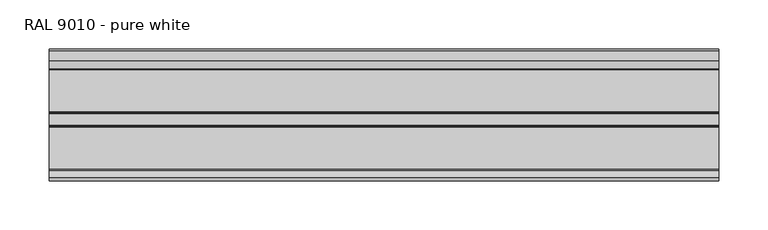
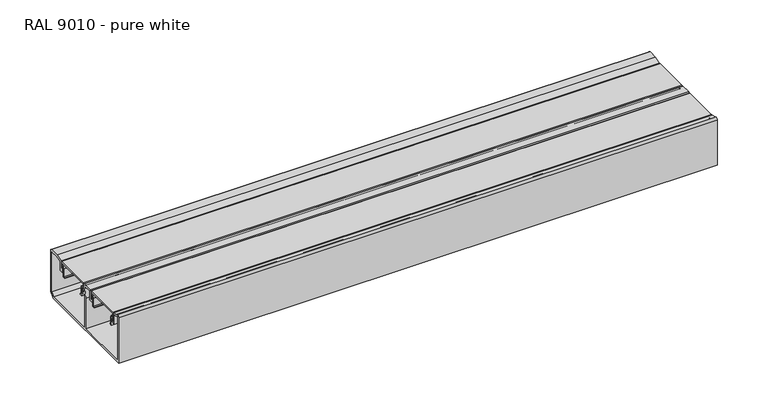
"""IFC4 building model written with IfcOpenShell, lengths in millimetres: proxy geometry, Electrical_Installations_Hager_GBD-Flat-Lid-End-Cap : RAL 9010 - pure white."""

from ifc_helpers import new_model, si_unit, point, frame, frame_2d, origin, place, context, project, spatial, polyline, circle_curve, trimmed, segment, composite_curve, outline, extrude, source, transform, mapped, element, save


def ral_9010_pure_white_5f65953f(model_context):
    return source(origin(), model_context, "Body", "SweptSolid", [
        extrude(outline(composite_curve([segment(polyline([(-64.6976563, 54.0894343), (-64.6976563, 2.0), (-2.2476563, 2.0), (-2.2476563, 38.3324137), (-0.2476563, 49.6749773), (-0.2476563, 52.0), (-9.8476563, 52.0), (-9.8476563, 41.5012147), (-14.5382813, 41.5012147), (-14.5382813, 45.748101), (-13.5382813, 45.748101), (-13.5382813, 42.9887147), (-11.6476563, 42.9887147), (-11.6476563, 53.0031102)]), True, "CONTINUOUS"), segment(trimmed(circle_curve(frame_2d((-10.6507665, 53.0031102)), 0.9968898), [point((-11.6476563, 53.0031102))], [point((-10.6507665, 54.0))], False, "CARTESIAN"), True, "CONTINUOUS"), segment(polyline([(-10.6507665, 54.0), (0.7441474, 54.0)]), True, "CONTINUOUS"), segment(trimmed(circle_curve(frame_2d((0.7441474, 52.9918037)), 1.0081963), [point((0.7441474, 54.0))], [point((1.7523437, 52.9918037))], False, "CARTESIAN"), True, "CONTINUOUS"), segment(polyline([(1.7523437, 52.9918037), (1.7523437, 49.5), (0.6591165, 43.3), (3.2523437, 43.3), (3.2523437, 45.7537431), (4.2523437, 45.7537431), (4.2523437, 41.5), (0.3417279, 41.5), (-0.2476563, 38.1574364), (-0.2476563, 2.0), (60.5496526, 2.0), (64.5023437, 5.9526912), (64.5023437, 54.2), (54.8614746, 54.2), (48.5523437, 52.1500391), (48.5523437, 41.5), (44.2523437, 41.5), (44.2523437, 45.7556921), (45.2523437, 45.7556921), (45.2523437, 42.9887147), (46.7523437, 42.9887147), (46.7523437, 53.9835468), (54.4971904, 56.5), (64.8989144, 56.5)]), True, "CONTINUOUS"), segment(trimmed(circle_curve(frame_2d((64.8989144, 54.5965707)), 1.9034293), [point((64.8989144, 56.5))], [point((66.8023437, 54.5965707))], False, "CARTESIAN"), True, "CONTINUOUS"), segment(polyline([(66.8023437, 54.5965707), (66.8023437, 5.0), (61.8023437, 0.0), (-66.9976563, 0.0), (-66.9976563, 54.4045249)]), True, "CONTINUOUS"), segment(trimmed(circle_curve(frame_2d((-64.9278927, 54.4045249)), 2.0697636), [point((-66.9976563, 54.4045249))], [point((-64.2989994, 56.3764312))], False, "CARTESIAN"), True, "CONTINUOUS"), segment(polyline([(-64.2989994, 56.3764312), (-56.8429688, 53.998505), (-56.8429688, 42.9887147), (-54.6789063, 42.9887147), (-54.6789063, 45.7565885), (-53.6789063, 45.7565885), (-53.6789063, 41.5012147), (-58.4476563, 41.5012147), (-58.4476563, 52.0961433), (-64.6976563, 54.0894343)]), True, "CONTINUOUS")], self_intersect=False)), frame((0.0, 0.0, 0.0), z_axis=(1.0, 0.0, 0.0), x_axis=(0.0, 1.0, 0.0)), (0.0, 0.0, 1.0), 679.873466),
        extrude(outline(composite_curve([segment(polyline([(-13.1613464, 52.5816445), (-55.0613464, 52.5816445), (-55.0613464, 49.2816445), (-53.7229555, 49.2816445)]), True, "CONTINUOUS"), segment(trimmed(circle_curve(frame_2d((-53.7229555, 47.1700354)), 2.1116091), [point((-53.7229555, 49.2816445))], [point((-51.6113464, 47.1700354))], False, "CARTESIAN"), True, "CONTINUOUS"), segment(polyline([(-51.6113464, 47.1700354), (-51.6113464, 37.6816445), (-49.7113464, 37.6816445), (-49.7113464, 36.8816445), (-52.6113464, 36.8816445), (-52.6113464, 47.3262929)]), True, "CONTINUOUS"), segment(trimmed(circle_curve(frame_2d((-53.566698, 47.3262929)), 0.9553516), [point((-52.6113464, 47.3262929))], [point((-53.566698, 48.2816445))], True, "CARTESIAN"), True, "CONTINUOUS"), segment(polyline([(-53.566698, 48.2816445), (-55.3644879, 48.2816445), (-55.3644879, 43.8012242), (-56.3660339, 43.8012242), (-56.3660339, 53.0900381)]), True, "CONTINUOUS"), segment(trimmed(circle_curve(frame_2d((-55.456072, 53.0900381)), 0.9099619), [point((-56.3660339, 53.0900381))], [point((-55.456072, 54.0))], False, "CARTESIAN"), True, "CONTINUOUS"), segment(polyline([(-55.456072, 54.0), (-12.9820268, 54.0)]), True, "CONTINUOUS"), segment(trimmed(circle_curve(frame_2d((-12.9820268, 52.9918196)), 1.0081804), [point((-12.9820268, 54.0))], [point((-11.9738464, 52.9918196))], False, "CARTESIAN"), True, "CONTINUOUS"), segment(polyline([(-11.9738464, 52.9918196), (-11.9738464, 43.8012242), (-12.858205, 43.8012242), (-12.858205, 48.2816445), (-14.6025892, 48.2816445)]), True, "CONTINUOUS"), segment(trimmed(circle_curve(frame_2d((-14.6025892, 47.2728873)), 1.0087572), [point((-14.6025892, 48.2816445))], [point((-15.6113464, 47.2728873))], True, "CARTESIAN"), True, "CONTINUOUS"), segment(polyline([(-15.6113464, 47.2728873), (-15.6113464, 36.8816445), (-18.5113464, 36.8816445), (-18.5113464, 37.6816445), (-16.6113464, 37.6816445), (-16.6113464, 47.3197896)]), True, "CONTINUOUS"), segment(trimmed(circle_curve(frame_2d((-14.6494915, 47.3197896)), 1.9618549), [point((-16.6113464, 47.3197896))], [point((-14.6494915, 49.2816445))], False, "CARTESIAN"), True, "CONTINUOUS"), segment(polyline([(-14.6494915, 49.2816445), (-13.1613464, 49.2816445), (-13.1613464, 52.5816445)]), True, "CONTINUOUS")], self_intersect=False)), frame((0.0, 0.0, 0.0), z_axis=(1.0, 0.0, 0.0), x_axis=(0.0, 1.0, 0.0)), (0.0, 0.0, 1.0), 679.873466),
        extrude(outline(composite_curve([segment(polyline([(45.1923672, 52.5816445), (3.2923672, 52.5816445), (3.2923672, 49.2816445), (4.6307581, 49.2816445)]), True, "CONTINUOUS"), segment(trimmed(circle_curve(frame_2d((4.6307581, 47.1700354)), 2.1116091), [point((4.6307581, 49.2816445))], [point((6.7423672, 47.1700354))], False, "CARTESIAN"), True, "CONTINUOUS"), segment(polyline([(6.7423672, 47.1700354), (6.7423672, 37.6816445), (8.6423672, 37.6816445), (8.6423672, 36.8816445), (5.7423672, 36.8816445), (5.7423672, 47.3262929)]), True, "CONTINUOUS"), segment(trimmed(circle_curve(frame_2d((4.7870156, 47.3262929)), 0.9553516), [point((5.7423672, 47.3262929))], [point((4.7870156, 48.2816445))], True, "CARTESIAN"), True, "CONTINUOUS"), segment(polyline([(4.7870156, 48.2816445), (2.9892258, 48.2816445), (2.9892258, 43.8231023), (1.9876797, 43.8231023), (1.9876797, 53.0900381)]), True, "CONTINUOUS"), segment(trimmed(circle_curve(frame_2d((2.8976417, 53.0900381)), 0.9099619), [point((1.9876797, 53.0900381))], [point((2.8976417, 54.0))], False, "CARTESIAN"), True, "CONTINUOUS"), segment(polyline([(2.8976417, 54.0), (45.3716869, 54.0)]), True, "CONTINUOUS"), segment(trimmed(circle_curve(frame_2d((45.3716869, 52.9918196)), 1.0081804), [point((45.3716869, 54.0))], [point((46.3798672, 52.9918196))], False, "CARTESIAN"), True, "CONTINUOUS"), segment(polyline([(46.3798672, 52.9918196), (46.3798672, 43.9733035), (45.4955087, 43.9733035), (45.4955087, 48.2816445), (43.7511244, 48.2816445)]), True, "CONTINUOUS"), segment(trimmed(circle_curve(frame_2d((43.7511244, 47.2728873)), 1.0087572), [point((43.7511244, 48.2816445))], [point((42.7423672, 47.2728873))], True, "CARTESIAN"), True, "CONTINUOUS"), segment(polyline([(42.7423672, 47.2728873), (42.7423672, 36.8816445), (39.8423672, 36.8816445), (39.8423672, 37.6816445), (41.7423672, 37.6816445), (41.7423672, 47.3197896)]), True, "CONTINUOUS"), segment(trimmed(circle_curve(frame_2d((43.7042221, 47.3197896)), 1.9618549), [point((41.7423672, 47.3197896))], [point((43.7042221, 49.2816445))], False, "CARTESIAN"), True, "CONTINUOUS"), segment(polyline([(43.7042221, 49.2816445), (45.1923672, 49.2816445), (45.1923672, 52.5816445)]), True, "CONTINUOUS")], self_intersect=False)), frame((0.0, 0.0, 0.0), z_axis=(1.0, 0.0, 0.0), x_axis=(0.0, 1.0, 0.0)), (0.0, 0.0, 1.0), 679.873466),
    ])


if __name__ == "__main__":
    model = new_model("IFC4")
    model_context = context("Model", 3, world=origin())
    ifc_project = project(units=[si_unit("LENGTHUNIT", "METRE", prefix="MILLI")], contexts=[model_context])
    site = spatial("IfcSite", under=ifc_project)
    building = spatial("IfcBuilding", under=site)
    placement = place(None, origin())
    ral_9010_pure_white_shape = ral_9010_pure_white_5f65953f(model_context)
    element("IfcBuildingElementProxy", 1, Name="Electrical_Installations_Hager_GBD-Flat-Lid-End-Cap : RAL 9010 - pure white", ObjectType="Electrical_Installations_Hager_GBD-Flat-Lid-End-Cap : RAL 9010 - pure white", at=placement, inside=building, context=model_context, shape_type="MappedRepresentation", body=[
        mapped(ral_9010_pure_white_shape, transform((0.0, 0.0, 0.0), x_axis=(1.0, 0.0, 0.0), y_axis=(0.0, 1.0, 0.0), z_axis=(0.0, 0.0, 1.0))),
    ])
    save(model, "model.ifc")
